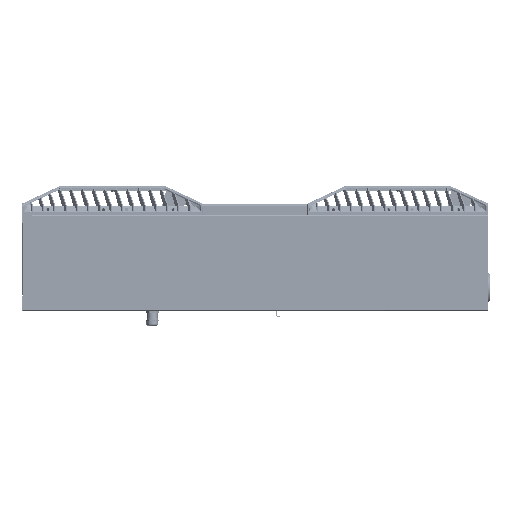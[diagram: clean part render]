
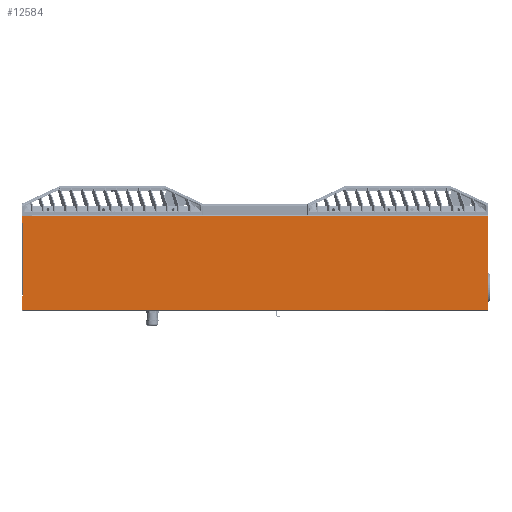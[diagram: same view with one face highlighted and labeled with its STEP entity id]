
A CAD part, left-side view. The second image highlights one B-rep face of the part: STEP entity #12584.
In plain terms, the highlighted planar face has unit normal (-1, 0, 0).
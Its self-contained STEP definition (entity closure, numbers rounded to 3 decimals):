
#3622=CARTESIAN_POINT('',(-197.5,949.,2.));
#3624=DIRECTION('',(0.,-1.,0.));
#3625=VECTOR('',#3624,949.);
#3626=CARTESIAN_POINT('',(-197.5,949.,2.));
#3627=LINE('',#3626,#3625);
#3628=DIRECTION('',(0.,0.866,0.5));
#3629=VECTOR('',#3628,2.309);
#3630=CARTESIAN_POINT('',(-197.5,947.,178.));
#3631=LINE('',#3630,#3629);
#3632=DIRECTION('',(0.,0.,1.));
#3633=VECTOR('',#3632,13.845);
#3634=CARTESIAN_POINT('',(-197.5,949.,179.155));
#3635=LINE('',#3634,#3633);
#3636=CARTESIAN_POINT('',(-197.5,949.,193.));
#3637=CARTESIAN_POINT('',(-197.5,948.971,193.305));
#3638=CARTESIAN_POINT('',(-197.5,948.776,193.776));
#3639=CARTESIAN_POINT('',(-197.5,948.305,193.971));
#3640=CARTESIAN_POINT('',(-197.5,948.,194.));
#3642=DIRECTION('',(0.,-0.5,-0.866));
#3643=VECTOR('',#3642,1.155);
#3644=CARTESIAN_POINT('',(-197.5,930.577,194.));
#3645=LINE('',#3644,#3643);
#3646=DIRECTION('',(0.,0.,1.));
#3647=VECTOR('',#3646,28.845);
#3648=CARTESIAN_POINT('',(-197.5,949.,2.));
#3649=LINE('',#3648,#3647);
#3650=DIRECTION('',(0.,-0.866,0.5));
#3651=VECTOR('',#3650,2.309);
#3652=CARTESIAN_POINT('',(-197.5,949.,30.845));
#3653=LINE('',#3652,#3651);
#3668=DIRECTION('',(0.,0.,-1.));
#3669=VECTOR('',#3668,146.);
#3670=CARTESIAN_POINT('',(-197.5,947.,178.));
#3671=LINE('',#3670,#3669);
#3805=DIRECTION('',(0.,0.,1.));
#3806=VECTOR('',#3805,191.);
#3807=CARTESIAN_POINT('',(-197.5,0.,2.));
#3808=LINE('',#3807,#3806);
#3835=DIRECTION('',(0.,1.,0.));
#3836=VECTOR('',#3835,930.);
#3837=CARTESIAN_POINT('',(-197.5,0.,193.));
#3838=LINE('',#3837,#3836);
#3851=DIRECTION('',(0.,1.,0.));
#3852=VECTOR('',#3851,17.423);
#3853=CARTESIAN_POINT('',(-197.5,930.577,194.));
#3854=LINE('',#3853,#3852);
#7875=VERTEX_POINT('',#3622);
#7877=CARTESIAN_POINT('',(-197.5,0.,2.));
#7878=VERTEX_POINT('',#7877);
#7879=CARTESIAN_POINT('',(-197.5,947.,178.));
#7880=CARTESIAN_POINT('',(-197.5,949.,179.155));
#7881=VERTEX_POINT('',#7879);
#7882=VERTEX_POINT('',#7880);
#7883=CARTESIAN_POINT('',(-197.5,949.,193.));
#7884=VERTEX_POINT('',#7883);
#7885=VERTEX_POINT('',#3640);
#7886=CARTESIAN_POINT('',(-197.5,930.577,194.));
#7887=VERTEX_POINT('',#7886);
#7888=CARTESIAN_POINT('',(-197.5,930.,193.));
#7889=VERTEX_POINT('',#7888);
#7890=CARTESIAN_POINT('',(-197.5,0.,193.));
#7891=VERTEX_POINT('',#7890);
#7892=CARTESIAN_POINT('',(-197.5,949.,30.845));
#7893=VERTEX_POINT('',#7892);
#7894=CARTESIAN_POINT('',(-197.5,947.,32.));
#7895=VERTEX_POINT('',#7894);
#12556=CARTESIAN_POINT('',(-197.5,0.,211.));
#12557=DIRECTION('',(-1.,0.,0.));
#12558=DIRECTION('',(0.,0.,-1.));
#12559=AXIS2_PLACEMENT_3D('',#12556,#12557,#12558);
#12560=PLANE('',#12559);
#12562=ORIENTED_EDGE('',*,*,#12561,.T.);
#12564=ORIENTED_EDGE('',*,*,#12563,.T.);
#12566=ORIENTED_EDGE('',*,*,#12565,.T.);
#12568=ORIENTED_EDGE('',*,*,#12567,.F.);
#12570=ORIENTED_EDGE('',*,*,#12569,.T.);
#12572=ORIENTED_EDGE('',*,*,#12571,.F.);
#12574=ORIENTED_EDGE('',*,*,#12573,.F.);
#12575=ORIENTED_EDGE('',*,*,#12549,.F.);
#12577=ORIENTED_EDGE('',*,*,#12576,.T.);
#12579=ORIENTED_EDGE('',*,*,#12578,.T.);
#12581=ORIENTED_EDGE('',*,*,#12580,.F.);
#12582=EDGE_LOOP('',(#12562,#12564,#12566,#12568,#12570,#12572,#12574,#12575,
#12577,#12579,#12581));
#12583=FACE_OUTER_BOUND('',#12582,.F.);
#12584=ADVANCED_FACE('',(#12583),#12560,.T.);
#3641=B_SPLINE_CURVE_WITH_KNOTS('',3,(#3636,#3637,#3638,#3639,#3640),
.UNSPECIFIED.,.F.,.F.,(4,1,4),(0.,0.5,1.),.UNSPECIFIED.);
#12549=EDGE_CURVE('',#7875,#7878,#3627,.T.);
#12561=EDGE_CURVE('',#7881,#7882,#3631,.T.);
#12563=EDGE_CURVE('',#7882,#7884,#3635,.T.);
#12565=EDGE_CURVE('',#7884,#7885,#3641,.T.);
#12567=EDGE_CURVE('',#7887,#7885,#3854,.T.);
#12569=EDGE_CURVE('',#7887,#7889,#3645,.T.);
#12571=EDGE_CURVE('',#7891,#7889,#3838,.T.);
#12573=EDGE_CURVE('',#7878,#7891,#3808,.T.);
#12576=EDGE_CURVE('',#7875,#7893,#3649,.T.);
#12578=EDGE_CURVE('',#7893,#7895,#3653,.T.);
#12580=EDGE_CURVE('',#7881,#7895,#3671,.T.);
